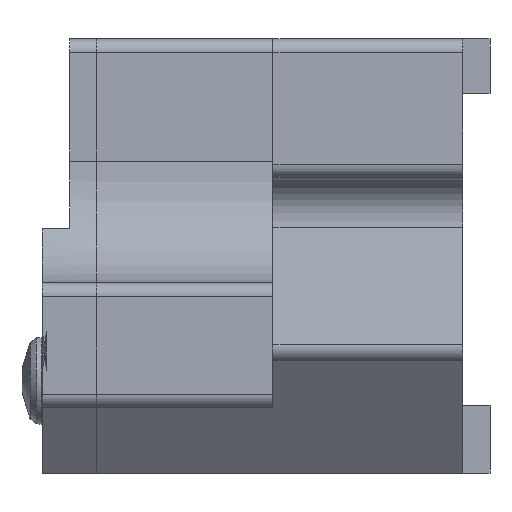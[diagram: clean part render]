
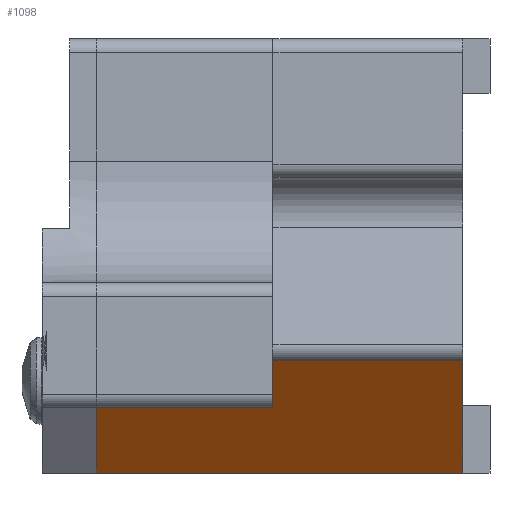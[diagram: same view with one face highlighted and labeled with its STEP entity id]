
A CAD part, left-side view. The second image highlights one B-rep face of the part: STEP entity #1098.
In plain terms, the highlighted planar face has unit normal (-0.342, 0, -0.94).
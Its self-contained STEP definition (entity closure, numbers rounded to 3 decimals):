
#187 = VERTEX_POINT ( 'NONE', #4245 ) ;
#293 = EDGE_CURVE ( 'NONE', #6366, #5361, #7709, .T. ) ;
#337 = DIRECTION ( 'NONE',  ( 0.94, 0., -0.342 ) ) ;
#483 = DIRECTION ( 'NONE',  ( -0.94, 0., 0.342 ) ) ;
#618 = CARTESIAN_POINT ( 'NONE',  ( -17.858, 0., 3.634 ) ) ;
#706 = VERTEX_POINT ( 'NONE', #2998 ) ;
#807 = ORIENTED_EDGE ( 'NONE', *, *, #293, .F. ) ;
#818 = DIRECTION ( 'NONE',  ( 0., 1., 0. ) ) ;
#901 = DIRECTION ( 'NONE',  ( 0., 1., 0. ) ) ;
#1098 = ADVANCED_FACE ( 'NONE', ( #5136 ), #5840, .F. ) ;
#1118 = CARTESIAN_POINT ( 'NONE',  ( 15.736, 0., -8.593 ) ) ;
#1293 = CARTESIAN_POINT ( 'NONE',  ( -6.5, -8.5, -0.5 ) ) ;
#1559 = CARTESIAN_POINT ( 'NONE',  ( -17.858, -8.5, 3.634 ) ) ;
#1654 = LINE ( 'NONE', #6034, #2245 ) ;
#1806 = EDGE_CURVE ( 'NONE', #187, #706, #6184, .T. ) ;
#1877 = VECTOR ( 'NONE', #901, 1000. ) ;
#2245 = VECTOR ( 'NONE', #337, 1000. ) ;
#2681 = VERTEX_POINT ( 'NONE', #5434 ) ;
#2847 = LINE ( 'NONE', #1118, #8066 ) ;
#2910 = VECTOR ( 'NONE', #4371, 1000. ) ;
#2998 = CARTESIAN_POINT ( 'NONE',  ( -17.858, 7., 3.634 ) ) ;
#3080 = CARTESIAN_POINT ( 'NONE',  ( -18.5, 7., 3.868 ) ) ;
#3103 = LINE ( 'NONE', #6242, #5148 ) ;
#3189 = VECTOR ( 'NONE', #818, 1000. ) ;
#3415 = CARTESIAN_POINT ( 'NONE',  ( -6.5, 0., -0.5 ) ) ;
#3432 = CARTESIAN_POINT ( 'NONE',  ( -18.5, -8.5, 3.868 ) ) ;
#3740 = EDGE_CURVE ( 'NONE', #4157, #706, #7766, .T. ) ;
#3879 = ORIENTED_EDGE ( 'NONE', *, *, #7524, .T. ) ;
#3932 = EDGE_LOOP ( 'NONE', ( #3879, #7013, #6988, #4754, #7467, #807 ) ) ;
#4157 = VERTEX_POINT ( 'NONE', #618 ) ;
#4245 = CARTESIAN_POINT ( 'NONE',  ( -13.171, 7., 1.928 ) ) ;
#4371 = DIRECTION ( 'NONE',  ( -0.94, 0., 0.342 ) ) ;
#4503 = DIRECTION ( 'NONE',  ( 0.342, 0., 0.94 ) ) ;
#4754 = ORIENTED_EDGE ( 'NONE', *, *, #7295, .T. ) ;
#5014 = DIRECTION ( 'NONE',  ( 0., 1., 0. ) ) ;
#5094 = CARTESIAN_POINT ( 'NONE',  ( -6.5, 13.5, -0.5 ) ) ;
#5136 = FACE_OUTER_BOUND ( 'NONE', #3932, .T. ) ;
#5148 = VECTOR ( 'NONE', #5014, 1000. ) ;
#5361 = VERTEX_POINT ( 'NONE', #5094 ) ;
#5434 = CARTESIAN_POINT ( 'NONE',  ( -13.171, 13.5, 1.928 ) ) ;
#5840 = PLANE ( 'NONE',  #7882 ) ;
#5929 = DIRECTION ( 'NONE',  ( 0.94, 0., -0.342 ) ) ;
#6034 = CARTESIAN_POINT ( 'NONE',  ( -18.5, 13.5, 3.868 ) ) ;
#6147 = EDGE_CURVE ( 'NONE', #2681, #5361, #1654, .T. ) ;
#6184 = LINE ( 'NONE', #3080, #2910 ) ;
#6242 = CARTESIAN_POINT ( 'NONE',  ( -13.171, -8.5, 1.928 ) ) ;
#6366 = VERTEX_POINT ( 'NONE', #3415 ) ;
#6988 = ORIENTED_EDGE ( 'NONE', *, *, #1806, .F. ) ;
#7013 = ORIENTED_EDGE ( 'NONE', *, *, #3740, .T. ) ;
#7295 = EDGE_CURVE ( 'NONE', #187, #2681, #3103, .T. ) ;
#7467 = ORIENTED_EDGE ( 'NONE', *, *, #6147, .T. ) ;
#7524 = EDGE_CURVE ( 'NONE', #6366, #4157, #2847, .T. ) ;
#7709 = LINE ( 'NONE', #1293, #3189 ) ;
#7766 = LINE ( 'NONE', #1559, #1877 ) ;
#7882 = AXIS2_PLACEMENT_3D ( 'NONE', #3432, #4503, #5929 ) ;
#8066 = VECTOR ( 'NONE', #483, 1000. ) ;
